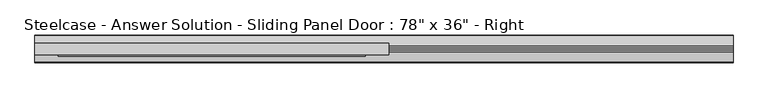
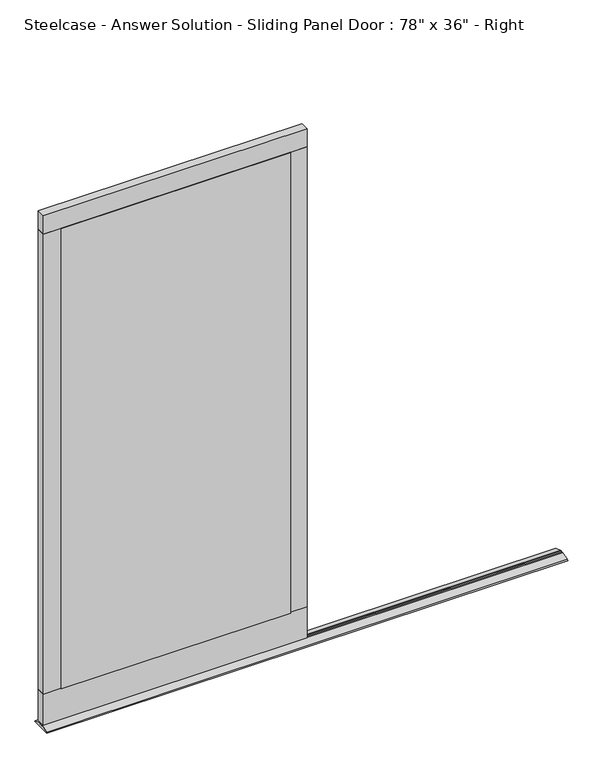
"""IFC4 building model written with IfcOpenShell, lengths in millimetres: furniture geometry."""

from ifc_helpers import new_model, si_unit, frame, origin, place, context, project, spatial, polyline, outline, extrude, source, transform, mapped, element, save


def furniture_35598ffa(model_context):
    return source(origin(), model_context, "Body", "SweptSolid", [
        extrude(outline(polyline([(-889.0, -53.9597878), (-1854.2, -53.9597878), (-1854.2, -22.2097635), (-889.0, -22.2097635), (-889.0, -53.9597878)])), frame((0.0, 0.0, 1915.1589729), z_axis=(0.0, 0.0, 1.0), x_axis=(1.0, 0.0, 0.0)), (0.0, 0.0, 1.0), 69.8499516),
        extrude(outline(polyline([(-1790.7000969, -53.9597878), (-1854.2, -53.9597878), (-1854.2, -22.2097635), (-1790.7000969, -22.2097635), (-1790.7000969, -53.9597878)])), frame((0.0, 0.0, 137.1589275), z_axis=(0.0, 0.0, 1.0), x_axis=(1.0, 0.0, 0.0)), (0.0, 0.0, 1.0), 1778.0000454),
        extrude(outline(polyline([(-889.0, -53.9597878), (-952.4999031, -53.9597878), (-952.4999031, -22.2097635), (-889.0, -22.2097635), (-889.0, -53.9597878)])), frame((0.0, 0.0, 137.1589275), z_axis=(0.0, 0.0, 1.0), x_axis=(1.0, 0.0, 0.0)), (0.0, 0.0, 1.0), 1778.0000454),
        extrude(outline(polyline([(-889.0, -53.9597878), (-1854.2, -53.9597878), (-1854.2, -22.2097635), (-889.0, -22.2097635), (-889.0, -53.9597878)])), frame((0.0, 0.0, 16.5089245), z_axis=(0.0, 0.0, 1.0), x_axis=(1.0, 0.0, 0.0)), (0.0, 0.0, 1.0), 120.650003),
        extrude(outline(polyline([(-952.4999031, -53.9597878), (-952.4999031, -57.7514894), (-1790.7000969, -57.7514894), (-1790.7000969, -53.9597878), (-952.4999031, -53.9597878)])), frame((0.0, 0.0, 137.1589275), z_axis=(0.0, 0.0, 1.0), x_axis=(1.0, 0.0, 0.0)), (0.0, 0.0, 1.0), 1778.0000454),
        extrude(outline(polyline([(-29.8388763, 12.2491055), (-1.9333122, 3.0138476), (0.0, 0.0), (-76.1694786, 0.0), (-74.2361664, 3.0138476), (-46.3306023, 12.2491055), (-46.3306023, 6.2879429), (-39.9806265, 6.2879429), (-39.9806265, 12.6379637), (-36.1889248, 12.6379637), (-36.1889248, 6.2879429), (-29.8388763, 6.2879429), (-29.8388763, 12.2491055)])), frame((-1854.2, 0.0, 0.0), z_axis=(1.0, 0.0, 0.0), x_axis=(0.0, 1.0, 0.0)), (0.0, 0.0, 1.0), 1905.0),
    ])


if __name__ == "__main__":
    model = new_model("IFC4")
    model_context = context("Model", 3, world=origin())
    ifc_project = project(units=[si_unit("LENGTHUNIT", "METRE", prefix="MILLI")], contexts=[model_context])
    site = spatial("IfcSite", under=ifc_project)
    building = spatial("IfcBuilding", under=site)
    placement = place(None, origin())
    furniture_shape = furniture_35598ffa(model_context)
    element("IfcFurniture", 1, ObjectType="Steelcase - Answer Solution - Sliding Panel Door : 78\" x 36\" - Right", at=placement, inside=building, context=model_context, shape_type="MappedRepresentation", body=[
        mapped(furniture_shape, transform((0.0, 0.0, 0.0), x_axis=(1.0, 0.0, 0.0), y_axis=(0.0, 1.0, 0.0), z_axis=(0.0, 0.0, 1.0))),
    ])
    save(model, "model.ifc")
